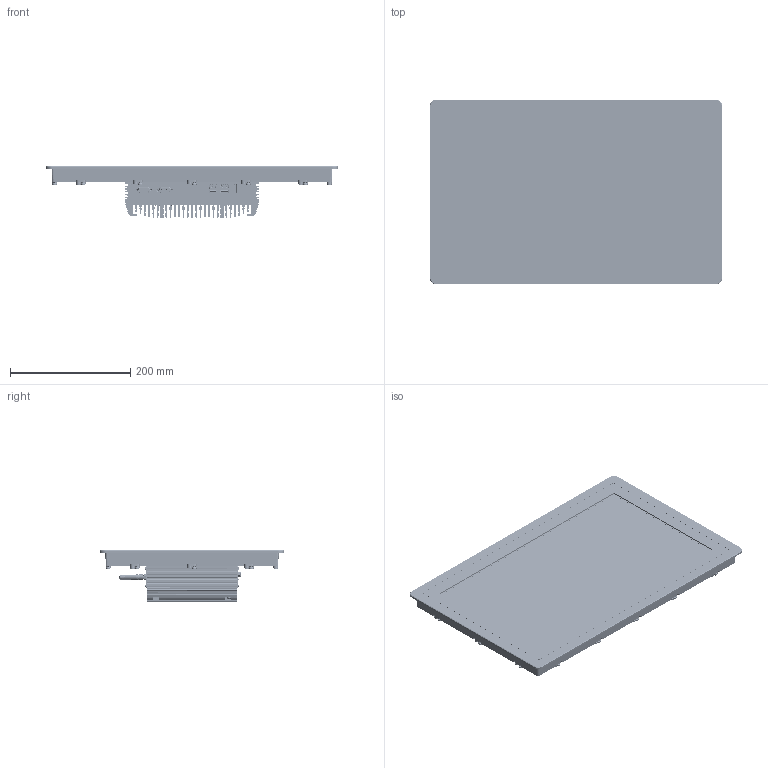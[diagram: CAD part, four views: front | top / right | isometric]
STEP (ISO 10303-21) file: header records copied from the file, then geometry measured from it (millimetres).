
FILE_DESCRIPTION(/* description */ (''),/* implementation_level */ '2;1');
FILE_NAME(/* name */ '18.5总装.stp',/* time_stamp */ '2026-03-05T10:38:09+08:00',/* author */ (''),/* organization */ (''),/* preprocessor_version */ 'ST-DEVELOPER v16',/* originating_system */ 'SIEMENS PLM Software NX 10.0',/* authorisation */ '');
FILE_SCHEMA (('AP203_CONFIGURATION_CONTROLLED_3D_DESIGN_OF_MECHANICAL_PARTS_AND_ASSEMBLIES_MIM_LF { 1 0 10303 403 2 1 2}'));
Products named in the file (1): Admi1FF8C4AFep2l
Bounding box: 486.5 x 307.4 x 85 mm (x, y, z)
Volume: 2406643.9 mm3; surface area: 1334930.8 mm2
Topology: 237 solids, 256 shells, 16340 faces, 42264 edges, 26504 vertices
Faces by surface type: cylinder 6896, plane 6234, bspline 1966, torus 738, cone 372, sphere 134
Full cylindrical faces by diameter (mm): 4.2 x1
Entity records: 690644 total; most frequent: CARTESIAN_POINT 376155, ORIENTED_EDGE 83870, EDGE_CURVE 41941, DIRECTION 39805, VERTEX_POINT 26504, B_SPLINE_CURVE_WITH_KNOTS 25740, EDGE_LOOP 17281, AXIS2_PLACEMENT_3D 17245
